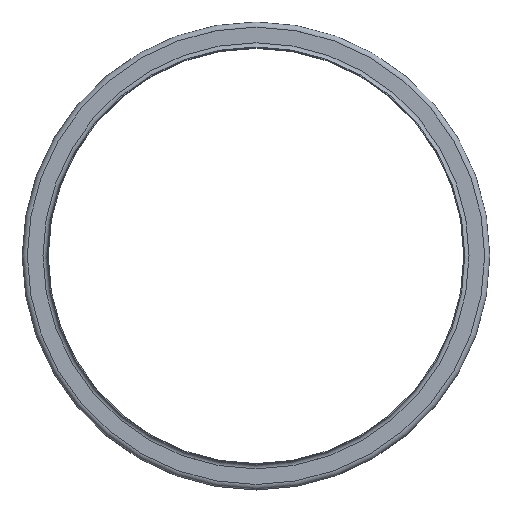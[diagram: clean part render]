
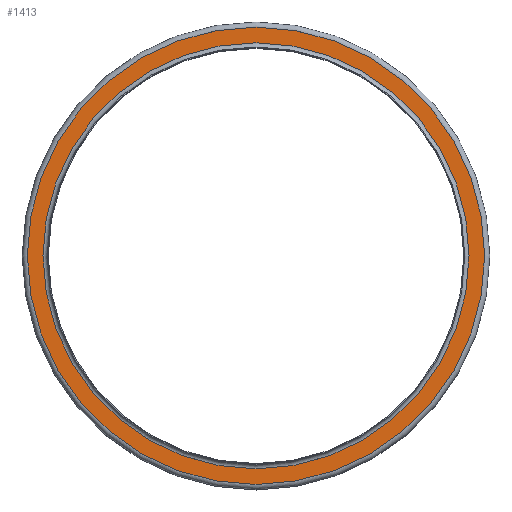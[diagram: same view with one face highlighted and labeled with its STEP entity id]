
A CAD part, top view. The second image highlights one B-rep face of the part: STEP entity #1413.
In plain terms, the highlighted planar face has unit normal (0, 0, 1).
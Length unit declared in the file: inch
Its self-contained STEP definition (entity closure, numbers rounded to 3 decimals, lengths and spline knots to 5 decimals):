
#127=FACE_BOUND('',#381,.T.);
#226=FACE_OUTER_BOUND('',#380,.T.);
#380=EDGE_LOOP('',(#1105));
#381=EDGE_LOOP('',(#1106));
#542=CIRCLE('',#1682,11.274);
#543=CIRCLE('',#1684,12.101);
#655=VERTEX_POINT('',#2578);
#656=VERTEX_POINT('',#2582);
#808=EDGE_CURVE('',#655,#655,#542,.T.);
#809=EDGE_CURVE('',#656,#656,#543,.T.);
#1105=ORIENTED_EDGE('',*,*,#809,.F.);
#1106=ORIENTED_EDGE('',*,*,#808,.T.);
#1203=PLANE('',#1683);
#1413=ADVANCED_FACE('',(#226,#127),#1203,.T.);
#1682=AXIS2_PLACEMENT_3D('',#2580,#2178,#2179);
#1683=AXIS2_PLACEMENT_3D('',#2581,#2180,#2181);
#1684=AXIS2_PLACEMENT_3D('',#2583,#2182,#2183);
#2178=DIRECTION('center_axis',(0.,0.,-1.));
#2179=DIRECTION('ref_axis',(1.,0.,0.));
#2180=DIRECTION('center_axis',(0.,0.,1.));
#2181=DIRECTION('ref_axis',(1.,0.,0.));
#2182=DIRECTION('center_axis',(0.,0.,-1.));
#2183=DIRECTION('ref_axis',(1.,0.,0.));
#2578=CARTESIAN_POINT('',(11.274,0.,-0.226));
#2580=CARTESIAN_POINT('Origin',(0.,0.,-0.226));
#2581=CARTESIAN_POINT('Origin',(0.,12.101,-0.226));
#2582=CARTESIAN_POINT('',(12.101,0.,-0.226));
#2583=CARTESIAN_POINT('Origin',(0.,0.,-0.226));
